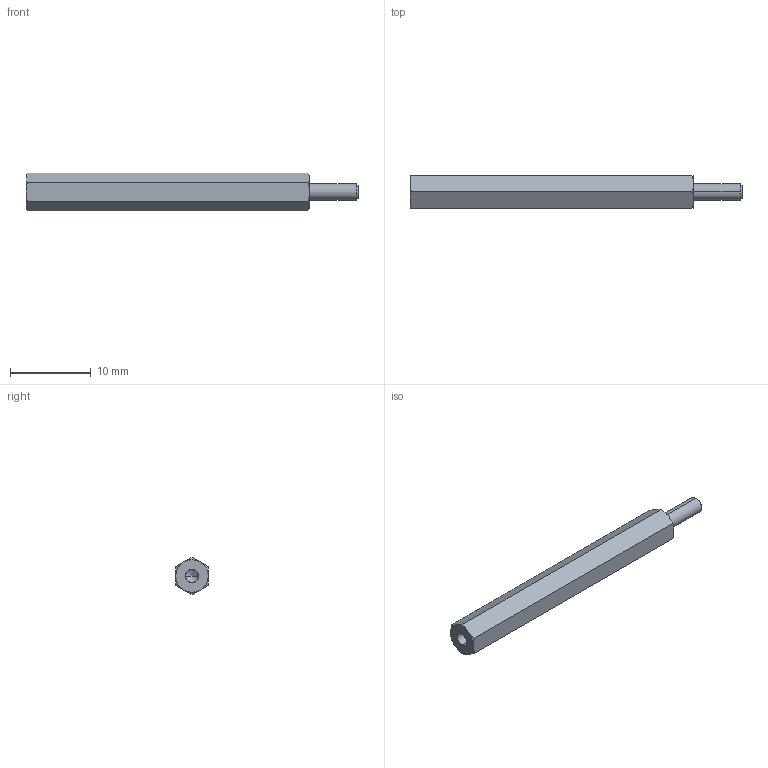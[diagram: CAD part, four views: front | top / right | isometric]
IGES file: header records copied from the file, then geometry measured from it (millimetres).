
Start section: SolidWorks IGES file using analytic representation for surfaces
Global section: file name: C:\Users\render1\Desktop\P0185_IGES\P0185.02-35.igs; native system: SolidWorks 2009; preprocessor: SolidWorks 2009; author: render1; date: 130627.111414; units: millimetre
Bounding box: 41 x 4 x 4.62 mm (x, y, z)
Surface area: 578.8 mm2 (no closed solid volume)
Topology: 0 solids, 0 shells, 29 faces, 292 edges, 290 vertices
Faces by surface type: revolution 20, bspline 9
